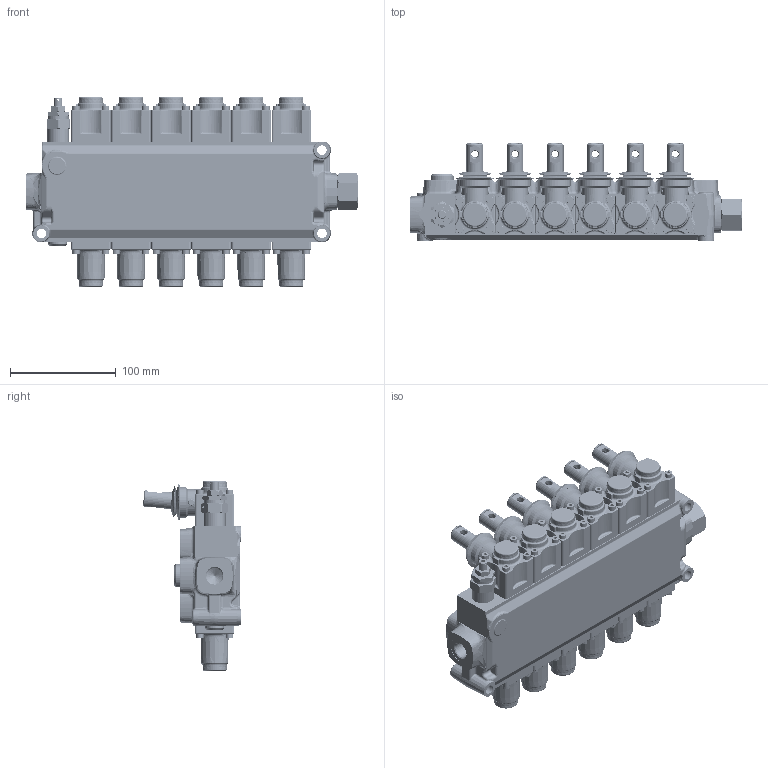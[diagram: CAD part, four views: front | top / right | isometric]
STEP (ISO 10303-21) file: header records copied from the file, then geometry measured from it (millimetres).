
FILE_DESCRIPTION (( 'STEP AP203' ), '1' );
FILE_NAME ('3D.step', '2026-06-09T08:58:24', ( 'Windows User' ), ( '' ), 'SwSTEP 2.0', 'SolidWorks 2025', '' );
FILE_SCHEMA (( 'CONFIG_CONTROL_DESIGN' ));
Length unit declared in the file: millimetre
Products named in the file (9): 03610A1-A2_10-320319; 060002278399-320488; 03730M1_03-320283; RDORIGINS-228505; Q25_00_P00-320093_RIJKERS-20260609105226_BSP38; 3XTAP722160-227901_3XTAP722160; 700035205000000-320139; 3D; 5KITVRQ2500-322451
Assembly tree (17 placements, depth 2):
  RDORIGINS-228505
  3D
    Q25_00_P00-320093_RIJKERS-20260609105226_BSP38
    700035205000000-320139
    5KITVRQ2500-322451
    3XTAP722160-227901_3XTAP722160
    03610A1-A2_10-320319  x6
    03730M1_03-320283  x6
    060002278399-320488
Bounding box: 314.69 x 92.94 x 179.5 mm (x, y, z)
Volume: 1395637.4 mm3; surface area: 357886.1 mm2
Topology: 39 solids, 114 shells, 5324 faces, 12454 edges, 7422 vertices
Faces by surface type: cylinder 1426, plane 1302, torus 1000, cone 805, bspline 674, sphere 117
Entity records: 96632 total; most frequent: CARTESIAN_POINT 35112, DIRECTION 12947, ORIENTED_EDGE 12612, EDGE_CURVE 6308, AXIS2_PLACEMENT_3D 5527, VERTEX_POINT 3823, CIRCLE 3201, EDGE_LOOP 2945
